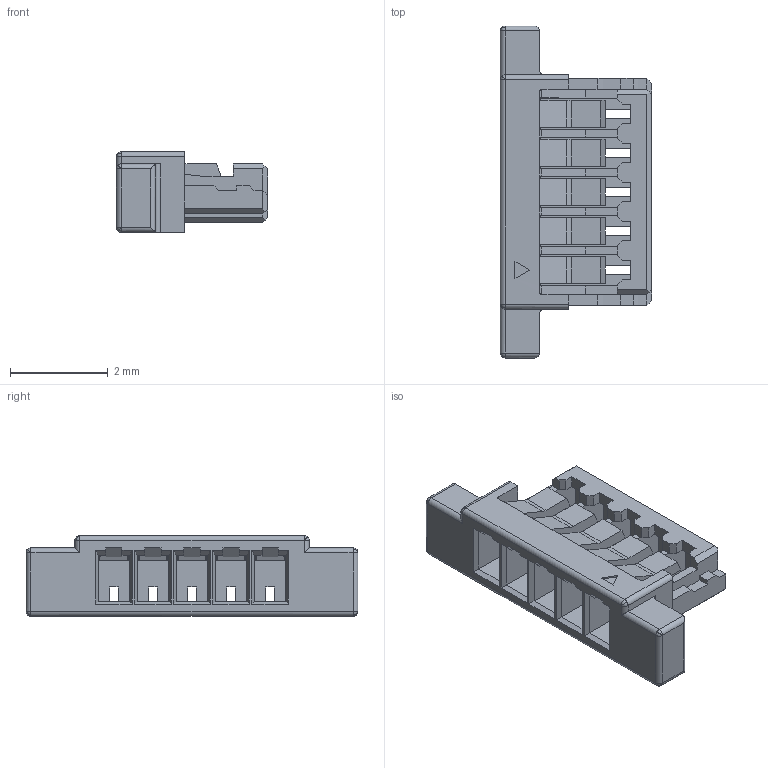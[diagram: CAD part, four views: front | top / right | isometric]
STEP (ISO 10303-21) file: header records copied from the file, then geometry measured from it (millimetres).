
FILE_DESCRIPTION((''),'2;1');
FILE_NAME('SCT0801H-05','2023-04-10T17:04:00',('Administrator'),(''),'CREO PARAMETRIC BY PTC INC, 2018050','CREO PARAMETRIC BY PTC INC, 2018050','');
FILE_SCHEMA(('CONFIG_CONTROL_DESIGN'));
Length unit declared in the file: millimetre
Products named in the file (1): SCT0801H-05
Bounding box: 3.1 x 6.8 x 1.65 mm (x, y, z)
Volume: 12 mm3; surface area: 105.4 mm2
Topology: 1 solids, 1 shells, 318 faces, 869 edges, 530 vertices
Faces by surface type: plane 271, cylinder 35, sphere 12
Entity records: 9839 total; most frequent: CARTESIAN_POINT 1856, ORIENTED_EDGE 1720, DIRECTION 1529, EDGE_CURVE 860, VECTOR 779, LINE 779, VERTEX_POINT 530, AXIS2_PLACEMENT_3D 375
